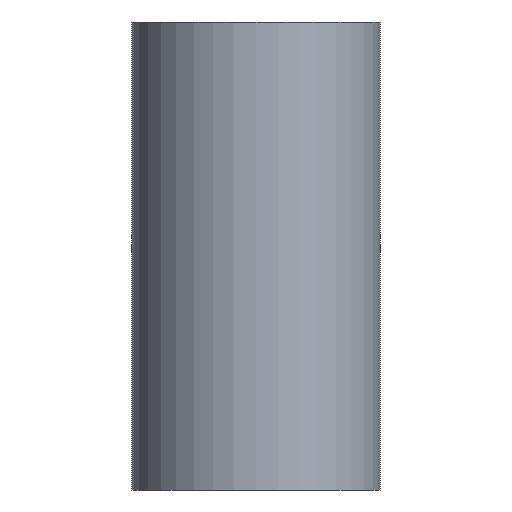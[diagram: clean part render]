
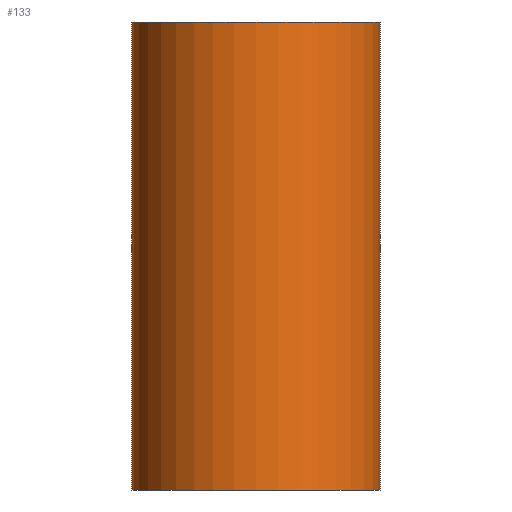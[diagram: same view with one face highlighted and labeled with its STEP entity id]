
A CAD part, front view. The second image highlights one B-rep face of the part: STEP entity #133.
In plain terms, the highlighted cylindrical face has radius 2.125 mm (diameter 4.25 mm), a partial arc.
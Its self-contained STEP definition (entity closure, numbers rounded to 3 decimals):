
#1 = CARTESIAN_POINT ( 'NONE',  ( -2.125, 0., 8. ) ) ;
#2 = EDGE_CURVE ( 'NONE', #125, #199, #192, .T. ) ;
#11 = EDGE_CURVE ( 'NONE', #30, #67, #105, .T. ) ;
#12 = VECTOR ( 'NONE', #109, 1000. ) ;
#15 = DIRECTION ( 'NONE',  ( 1., 0., 0. ) ) ;
#17 = LINE ( 'NONE', #1, #12 ) ;
#18 = AXIS2_PLACEMENT_3D ( 'NONE', #37, #43, #169 ) ;
#23 = EDGE_CURVE ( 'NONE', #125, #30, #17, .T. ) ;
#30 = VERTEX_POINT ( 'NONE', #207 ) ;
#37 = CARTESIAN_POINT ( 'NONE',  ( 0., 0., 8. ) ) ;
#39 = DIRECTION ( 'NONE',  ( 0., 0., -1. ) ) ;
#43 = DIRECTION ( 'NONE',  ( 0., 0., -1. ) ) ;
#49 = AXIS2_PLACEMENT_3D ( 'NONE', #186, #72, #187 ) ;
#64 = ORIENTED_EDGE ( 'NONE', *, *, #11, .T. ) ;
#67 = VERTEX_POINT ( 'NONE', #141 ) ;
#72 = DIRECTION ( 'NONE',  ( 0., 0., 1. ) ) ;
#81 = CARTESIAN_POINT ( 'NONE',  ( 0., 0., 8. ) ) ;
#83 = CARTESIAN_POINT ( 'NONE',  ( -2.125, 0., 8. ) ) ;
#87 = CARTESIAN_POINT ( 'NONE',  ( 2.125, 0., 8. ) ) ;
#95 = LINE ( 'NONE', #144, #138 ) ;
#100 = FACE_OUTER_BOUND ( 'NONE', #205, .T. ) ;
#105 = CIRCLE ( 'NONE', #49, 2.125 ) ;
#109 = DIRECTION ( 'NONE',  ( 0., 0., -1. ) ) ;
#117 = ORIENTED_EDGE ( 'NONE', *, *, #23, .T. ) ;
#125 = VERTEX_POINT ( 'NONE', #83 ) ;
#133 = ADVANCED_FACE ( 'NONE', ( #100 ), #140, .T. ) ;
#138 = VECTOR ( 'NONE', #39, 1000. ) ;
#140 = CYLINDRICAL_SURFACE ( 'NONE', #18, 2.125 ) ;
#141 = CARTESIAN_POINT ( 'NONE',  ( 2.125, 0., 0. ) ) ;
#144 = CARTESIAN_POINT ( 'NONE',  ( 2.125, 0., 8. ) ) ;
#156 = ORIENTED_EDGE ( 'NONE', *, *, #2, .F. ) ;
#169 = DIRECTION ( 'NONE',  ( -1., 0., 0. ) ) ;
#177 = DIRECTION ( 'NONE',  ( 0., 0., 1. ) ) ;
#186 = CARTESIAN_POINT ( 'NONE',  ( 0., 0., 0. ) ) ;
#187 = DIRECTION ( 'NONE',  ( 1., 0., 0. ) ) ;
#188 = ORIENTED_EDGE ( 'NONE', *, *, #210, .F. ) ;
#192 = CIRCLE ( 'NONE', #197, 2.125 ) ;
#197 = AXIS2_PLACEMENT_3D ( 'NONE', #81, #177, #15 ) ;
#199 = VERTEX_POINT ( 'NONE', #87 ) ;
#205 = EDGE_LOOP ( 'NONE', ( #188, #156, #117, #64 ) ) ;
#207 = CARTESIAN_POINT ( 'NONE',  ( -2.125, 0., 0. ) ) ;
#210 = EDGE_CURVE ( 'NONE', #199, #67, #95, .T. ) ;
